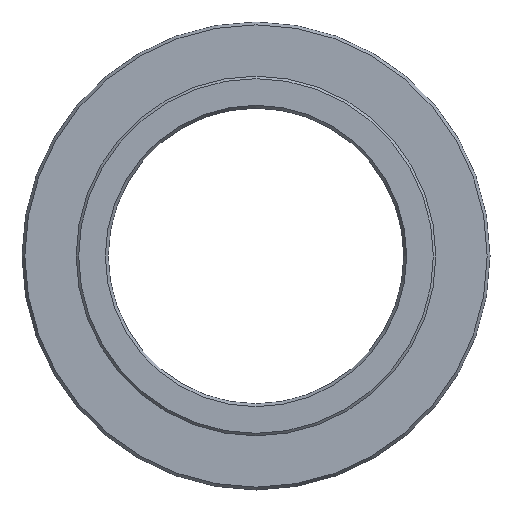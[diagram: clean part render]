
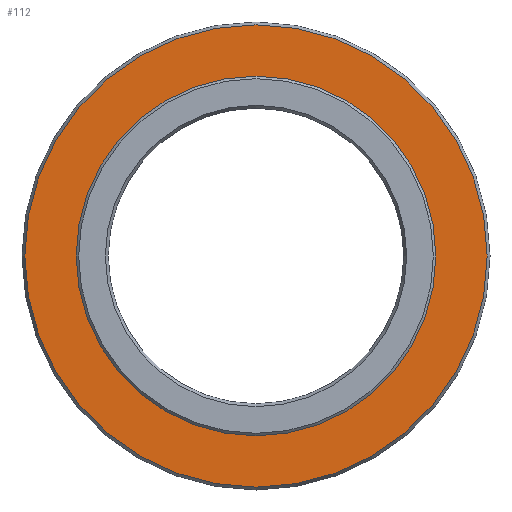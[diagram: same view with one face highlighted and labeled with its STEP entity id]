
A CAD part, left-side view. The second image highlights one B-rep face of the part: STEP entity #112.
In plain terms, the highlighted planar face has unit normal (-1, 0, 0).
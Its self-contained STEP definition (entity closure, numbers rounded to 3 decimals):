
#107=PLANE('',#279);
#112=ADVANCED_FACE('',(#131,#132),#107,.T.);
#131=FACE_BOUND('',#163,.T.);
#132=FACE_BOUND('',#164,.T.);
#163=EDGE_LOOP('',(#195));
#164=EDGE_LOOP('',(#196));
#195=ORIENTED_EDGE('',*,*,#243,.T.);
#196=ORIENTED_EDGE('',*,*,#244,.T.);
#227=VERTEX_POINT('',#379);
#228=VERTEX_POINT('',#381);
#243=EDGE_CURVE('',#227,#227,#259,.T.);
#244=EDGE_CURVE('',#228,#228,#260,.T.);
#259=CIRCLE('',#277,46.923);
#260=CIRCLE('',#278,36.5);
#277=AXIS2_PLACEMENT_3D('',#378,#314,#315);
#278=AXIS2_PLACEMENT_3D('',#380,#316,#317);
#279=AXIS2_PLACEMENT_3D('',#382,#318,#319);
#314=DIRECTION('',(-1.,0.,0.));
#315=DIRECTION('',(0.,0.,1.));
#316=DIRECTION('',(1.,0.,0.));
#317=DIRECTION('',(0.,0.,-1.));
#318=DIRECTION('',(-1.,0.,0.));
#319=DIRECTION('',(0.,0.,1.));
#378=CARTESIAN_POINT('',(0.,0.,0.));
#379=CARTESIAN_POINT('',(0.,0.,46.923));
#380=CARTESIAN_POINT('',(0.,0.,0.));
#381=CARTESIAN_POINT('',(0.,0.,-36.5));
#382=CARTESIAN_POINT('',(0.,47.5,0.));
